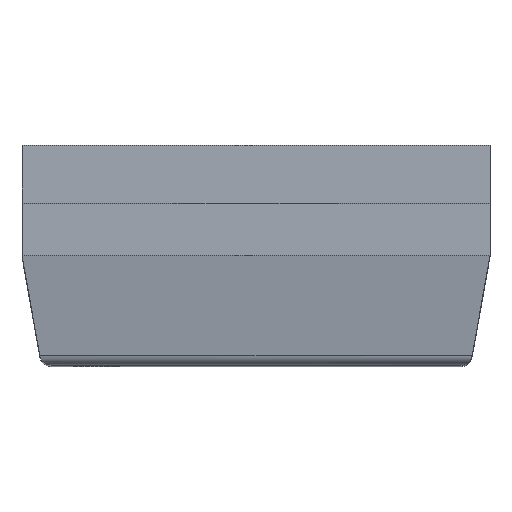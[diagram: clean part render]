
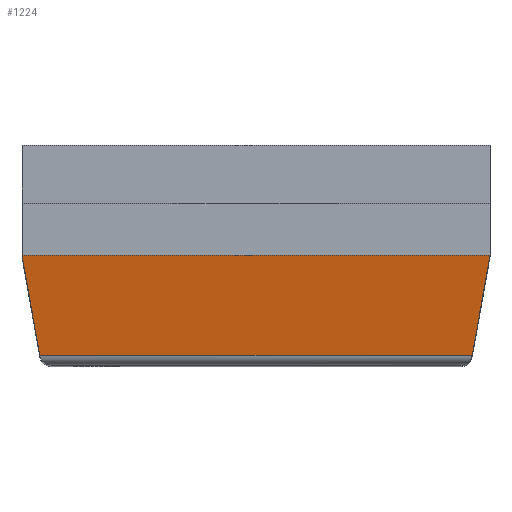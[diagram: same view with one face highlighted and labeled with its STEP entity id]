
A CAD part, top view. The second image highlights one B-rep face of the part: STEP entity #1224.
In plain terms, the highlighted planar face has unit normal (0, -0.139, 0.99).
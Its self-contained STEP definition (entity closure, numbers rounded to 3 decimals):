
#976 = CARTESIAN_POINT ( 'NONE',  ( -2.605, 0.005, 24.52 ) ) ;
#977 = VERTEX_POINT ( 'NONE', #976 ) ;
#1056 = CARTESIAN_POINT ( 'NONE',  ( 7.685, 0.005, 24.52 ) ) ;
#1057 = VERTEX_POINT ( 'NONE', #1056 ) ;
#1119 = CARTESIAN_POINT ( 'NONE',  ( 2.54, 0.005, 24.52 ) ) ;
#1120 = DIRECTION ( 'NONE',  ( 1., 0., 0. ) ) ;
#1121 = VECTOR ( 'NONE', #1120, 1000. ) ;
#1122 = LINE ( 'NONE', #1119, #1121 ) ;
#1123 = EDGE_CURVE ( 'NONE', #977, #1057, #1122, .T. ) ;
#1178 = CARTESIAN_POINT ( 'NONE',  ( -2.214, -2.19, 24.129 ) ) ;
#1179 = VERTEX_POINT ( 'NONE', #1178 ) ;
#1186 = CARTESIAN_POINT ( 'NONE',  ( -2.191, -2.348, 24.106 ) ) ;
#1187 = DIRECTION ( 'NONE',  ( 0.138, -0.981, -0.138 ) ) ;
#1188 = VECTOR ( 'NONE', #1187, 1000. ) ;
#1189 = LINE ( 'NONE', #1186, #1188 ) ;
#1190 = EDGE_CURVE ( 'NONE', #977, #1179, #1189, .T. ) ;
#1201 = ORIENTED_EDGE ( 'NONE', *, *, #1190, .T. ) ;
#1202 = CARTESIAN_POINT ( 'NONE',  ( 7.294, -2.19, 24.129 ) ) ;
#1203 = VERTEX_POINT ( 'NONE', #1202 ) ;
#1204 = CARTESIAN_POINT ( 'NONE',  ( 7.263, -2.19, 24.129 ) ) ;
#1205 = DIRECTION ( 'NONE',  ( 1., 0., 0. ) ) ;
#1206 = VECTOR ( 'NONE', #1205, 1000. ) ;
#1207 = LINE ( 'NONE', #1204, #1206 ) ;
#1208 = EDGE_CURVE ( 'NONE', #1179, #1203, #1207, .T. ) ;
#1209 = ORIENTED_EDGE ( 'NONE', *, *, #1208, .T. ) ;
#1210 = CARTESIAN_POINT ( 'NONE',  ( 7.52, -0.577, 24.355 ) ) ;
#1211 = DIRECTION ( 'NONE',  ( -0.138, -0.981, -0.138 ) ) ;
#1212 = VECTOR ( 'NONE', #1211, 1000. ) ;
#1213 = LINE ( 'NONE', #1210, #1212 ) ;
#1214 = EDGE_CURVE ( 'NONE', #1057, #1203, #1213, .T. ) ;
#1215 = ORIENTED_EDGE ( 'NONE', *, *, #1214, .F. ) ;
#1216 = ORIENTED_EDGE ( 'NONE', *, *, #1123, .F. ) ;
#1217 = EDGE_LOOP ( 'NONE', ( #1201, #1209, #1215, #1216 ) ) ;
#1218 = FACE_OUTER_BOUND ( 'NONE', #1217, .T. ) ;
#1219 = CARTESIAN_POINT ( 'NONE',  ( 2.54, 0.005, 24.52 ) ) ;
#1220 = DIRECTION ( 'NONE',  ( 0., 0.139, -0.99 ) ) ;
#1221 = DIRECTION ( 'NONE',  ( 1., 0., 0. ) ) ;
#1222 = AXIS2_PLACEMENT_3D ( 'NONE', #1219, #1220, #1221 ) ;
#1223 = PLANE ( 'NONE', #1222 ) ;
#1224 = ADVANCED_FACE ( 'NONE', ( #1218 ), #1223, .F. ) ;
